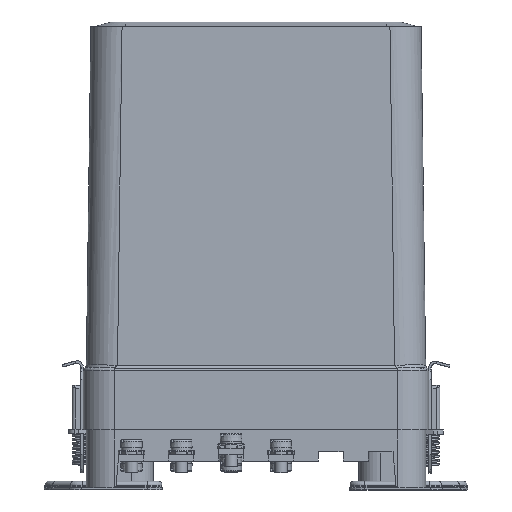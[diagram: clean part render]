
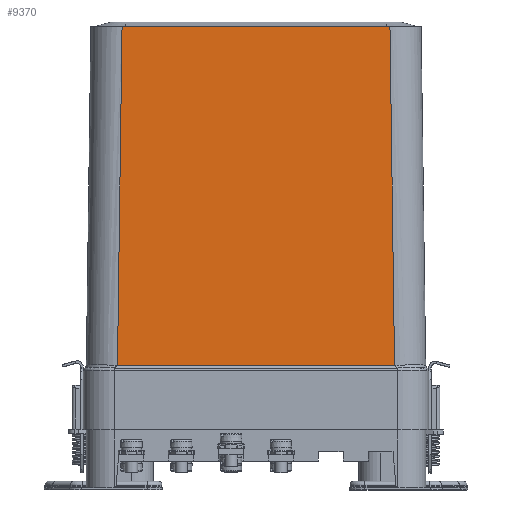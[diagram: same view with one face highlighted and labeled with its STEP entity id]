
A CAD part, left-side view. The second image highlights one B-rep face of the part: STEP entity #9370.
In plain terms, the highlighted planar face has unit normal (-1, 0, 0.013).
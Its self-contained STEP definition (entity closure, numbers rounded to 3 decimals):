
#9370=ADVANCED_FACE('',(#23738),#23740,.T.);
#23738=FACE_BOUND('',#23739,.T.);
#23739=EDGE_LOOP('',(#36608,#36609,#36610,#36611));
#23740=PLANE('',#23741);
#23741=AXIS2_PLACEMENT_3D('',#23742,#23743,#23744);
#23742=CARTESIAN_POINT('',(-30.5,-43.,149.5));
#23743=DIRECTION('',(-1.,0.,0.014));
#23744=DIRECTION('',(0.,1.,0.));
#36608=ORIENTED_EDGE('',*,*,#50601,.T.);
#36609=ORIENTED_EDGE('',*,*,#51342,.F.);
#36610=ORIENTED_EDGE('',*,*,#51343,.T.);
#36611=ORIENTED_EDGE('',*,*,#51344,.T.);
#50601=EDGE_CURVE('',#57349,#57347,#57350,.T.);
#51342=EDGE_CURVE('',#58574,#57347,#58576,.T.);
#51343=EDGE_CURVE('',#58574,#58577,#58578,.T.);
#51344=EDGE_CURVE('',#58577,#57349,#58579,.T.);
#57347=VERTEX_POINT('',#72240);
#57349=VERTEX_POINT('',#72246);
#57350=LINE('',#72247,#72248);
#58574=VERTEX_POINT('',#75815);
#58576=LINE('',#75879,#75880);
#58577=VERTEX_POINT('',#75882);
#58578=LINE('',#75883,#75884);
#58579=LINE('',#75886,#75887);
#72240=CARTESIAN_POINT('',(-31.99,-44.49,39.224));
#72246=CARTESIAN_POINT('',(-31.99,44.49,39.224));
#72247=CARTESIAN_POINT('',(-31.99,44.49,39.224));
#72248=VECTOR('',#72249,1.);
#72249=DIRECTION('',(0.,-1.,0.));
#75815=CARTESIAN_POINT('',(-30.52,-43.02,148.));
#75879=CARTESIAN_POINT('',(-30.52,-43.02,148.));
#75880=VECTOR('',#75881,1.);
#75881=DIRECTION('',(-0.014,-0.014,-1.));
#75882=CARTESIAN_POINT('',(-30.52,43.02,148.));
#75883=CARTESIAN_POINT('',(-30.52,-43.02,148.));
#75884=VECTOR('',#75885,1.);
#75885=DIRECTION('',(0.,1.,0.));
#75886=CARTESIAN_POINT('',(-30.52,43.02,148.));
#75887=VECTOR('',#75888,1.);
#75888=DIRECTION('',(-0.014,0.014,-1.));
